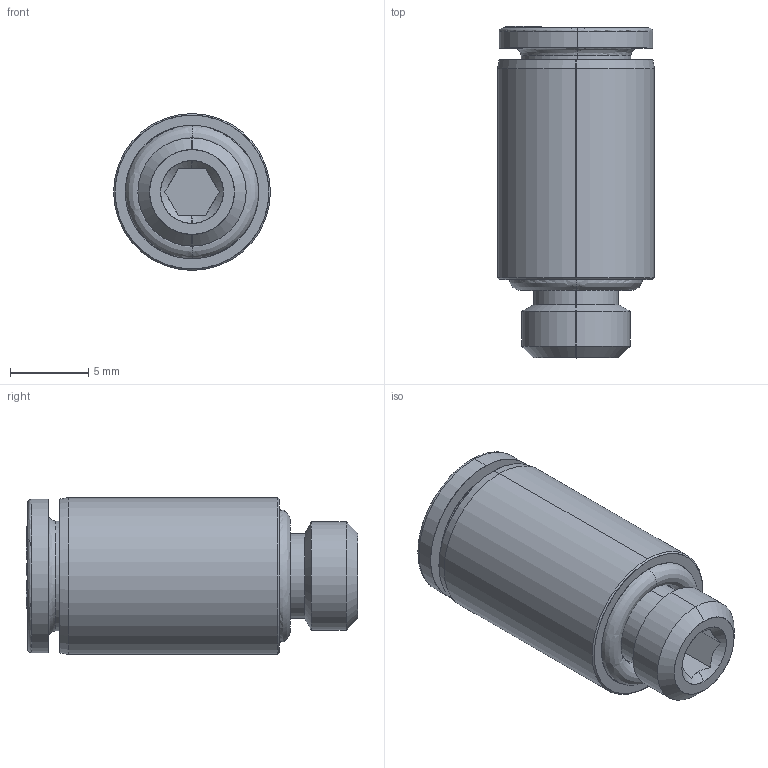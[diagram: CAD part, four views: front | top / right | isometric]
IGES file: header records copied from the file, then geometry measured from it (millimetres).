
Start section: SolidWorks IGES file using analytic representation for surfaces
Global section: file name: C:\Users\Cad02\Desktop\56000\5601000004.IGS; native system: SolidWorks 2015; preprocessor: SolidWorks 2015; author: cad02; date: 150914.163109; units: millimetre
Bounding box: 10 x 21.15 x 10 mm (x, y, z)
Surface area: 1191.2 mm2 (no closed solid volume)
Topology: 0 solids, 0 shells, 264 faces, 2411 edges, 2411 vertices
Faces by surface type: bspline 228, revolution 36
